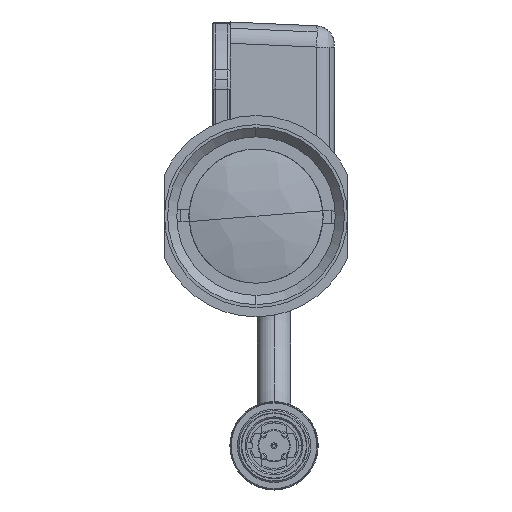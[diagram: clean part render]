
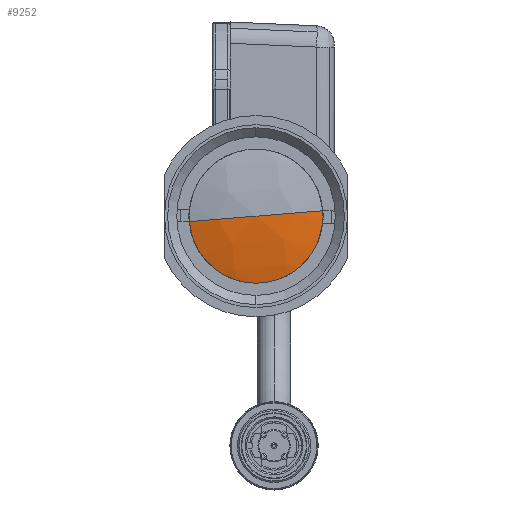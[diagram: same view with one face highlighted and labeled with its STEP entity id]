
A CAD part, left-side view. The second image highlights one B-rep face of the part: STEP entity #9252.
In plain terms, the highlighted free-form (B-spline) face has degree [3, 3] with [4, 4] control points.
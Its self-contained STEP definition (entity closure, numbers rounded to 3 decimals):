
#100 = FACE_OUTER_BOUND ( 'NONE', #10369, .T. ) ;
#189 = AXIS2_PLACEMENT_3D ( 'NONE', #12045, #7825, #9122 ) ;
#352 = CARTESIAN_POINT ( 'NONE',  ( -87.655, 24.061, 12.776 ) ) ;
#378 = CARTESIAN_POINT ( 'NONE',  ( -87.109, 8.324, 26.87 ) ) ;
#451 = AXIS2_PLACEMENT_3D ( 'NONE', #14436, #5702, #5873 ) ;
#719 = CIRCLE ( 'NONE', #451, 46.44 ) ;
#1900 = CARTESIAN_POINT ( 'NONE',  ( -89.423, 25.093, 25.511 ) ) ;
#2514 = ORIENTED_EDGE ( 'NONE', *, *, #2705, .F. ) ;
#2613 = CARTESIAN_POINT ( 'NONE',  ( -85.388, 7.197, 14.785 ) ) ;
#2679 = ORIENTED_EDGE ( 'NONE', *, *, #8224, .T. ) ;
#2686 = CIRCLE ( 'NONE', #189, 12.5 ) ;
#2705 = EDGE_CURVE ( 'NONE', #15722, #13756, #2686, .T. ) ;
#2953 = CARTESIAN_POINT ( 'NONE',  ( -85.388, 32.407, 12.741 ) ) ;
#4321 = CARTESIAN_POINT ( 'NONE',  ( -88.83, 24.397, 16.927 ) ) ;
#5702 = DIRECTION ( 'NONE',  ( 0., -0.081, -0.997 ) ) ;
#5873 = DIRECTION ( 'NONE',  ( 0., -0.997, 0.081 ) ) ;
#7072 = CARTESIAN_POINT ( 'NONE',  ( -89.423, 16.473, 26.21 ) ) ;
#7161 = CARTESIAN_POINT ( 'NONE',  ( -87.068, 33.055, 20.742 ) ) ;
#7825 = DIRECTION ( 'NONE',  ( 1., 0., 0. ) ) ;
#8224 = EDGE_CURVE ( 'NONE', #15722, #13756, #719, .T. ) ;
#9122 = DIRECTION ( 'NONE',  ( 0., -0.081, -0.997 ) ) ;
#9252 = ADVANCED_FACE ( 'NONE', ( #100 ), #15122, .T. ) ;
#10369 = EDGE_LOOP ( 'NONE', ( #2514, #2679 ) ) ;
#10464 = CARTESIAN_POINT ( 'NONE',  ( -87.068, 8.178, 26.882 ) ) ;
#12045 = CARTESIAN_POINT ( 'NONE',  ( -87.109, 20.783, 25.86 ) ) ;
#12090 = CARTESIAN_POINT ( 'NONE',  ( -87.655, 15.44, 13.475 ) ) ;
#12173 = CARTESIAN_POINT ( 'NONE',  ( -89.423, 24.743, 21.198 ) ) ;
#12781 = CARTESIAN_POINT ( 'NONE',  ( -87.109, 33.242, 24.85 ) ) ;
#13467 = CARTESIAN_POINT ( 'NONE',  ( -88.83, 15.777, 17.625 ) ) ;
#13723 = CARTESIAN_POINT ( 'NONE',  ( -87.068, 33.388, 24.838 ) ) ;
#13756 = VERTEX_POINT ( 'NONE', #12781 ) ;
#14426 = CARTESIAN_POINT ( 'NONE',  ( -86.505, 7.517, 18.728 ) ) ;
#14436 = CARTESIAN_POINT ( 'NONE',  ( -42.383, 20.783, 25.86 ) ) ;
#15122 =( BOUNDED_SURFACE ( )  B_SPLINE_SURFACE ( 3, 3, ( 
 ( #10464, #15704, #14426, #2613 ),
 ( #7072, #16120, #13467, #12090 ),
 ( #1900, #12173, #4321, #352 ),
 ( #13723, #7161, #16045, #2953 ) ),
 .UNSPECIFIED., .F., .F., .F. ) 
 B_SPLINE_SURFACE_WITH_KNOTS ( ( 4, 4 ),
 ( 4, 4 ),
 ( 0., 1. ),
 ( 0., 1. ),
 .UNSPECIFIED. ) 
 GEOMETRIC_REPRESENTATION_ITEM ( )  RATIONAL_B_SPLINE_SURFACE ( (
 ( 1., 0.994, 0.994, 1.),
 ( 0.975, 0.969, 0.969, 0.975),
 ( 0.975, 0.969, 0.969, 0.975),
 ( 1., 0.994, 0.994, 1.) ) ) 
 REPRESENTATION_ITEM ( '' )  SURFACE ( )  );
#15704 = CARTESIAN_POINT ( 'NONE',  ( -87.068, 7.846, 22.785 ) ) ;
#15722 = VERTEX_POINT ( 'NONE', #378 ) ;
#16045 = CARTESIAN_POINT ( 'NONE',  ( -86.505, 32.727, 16.684 ) ) ;
#16120 = CARTESIAN_POINT ( 'NONE',  ( -89.423, 16.123, 21.897 ) ) ;
